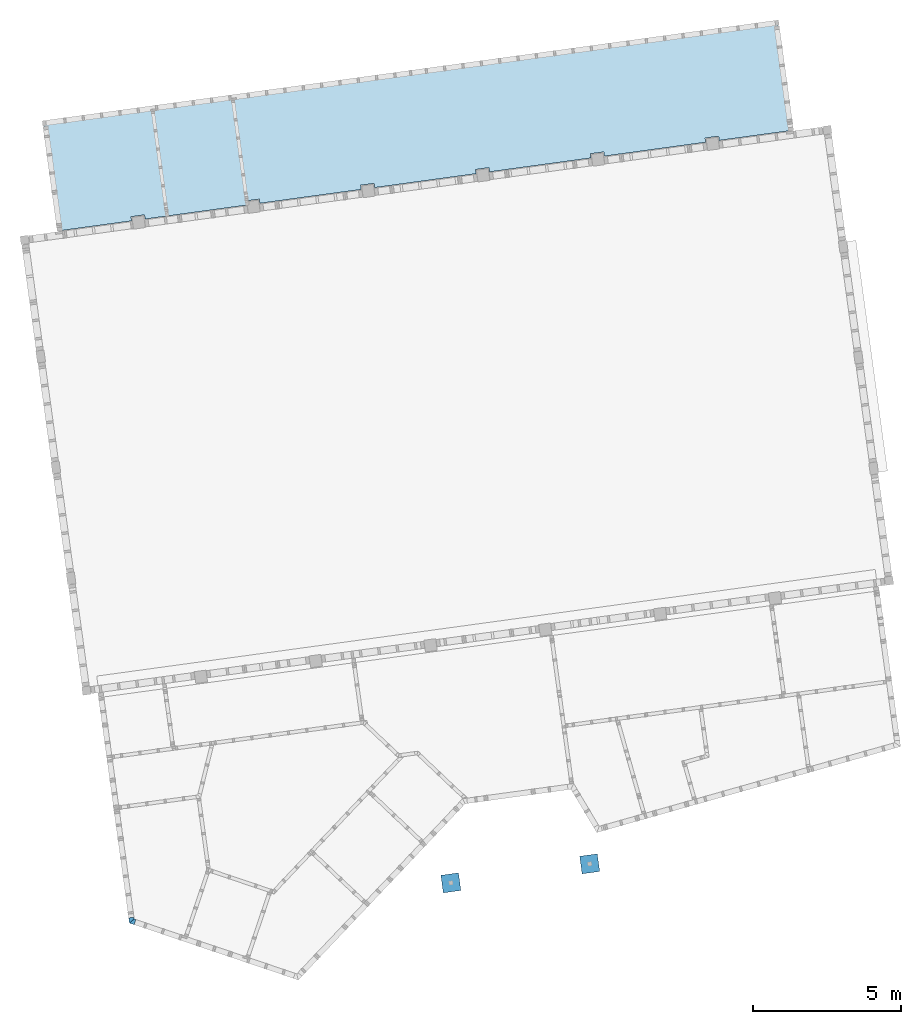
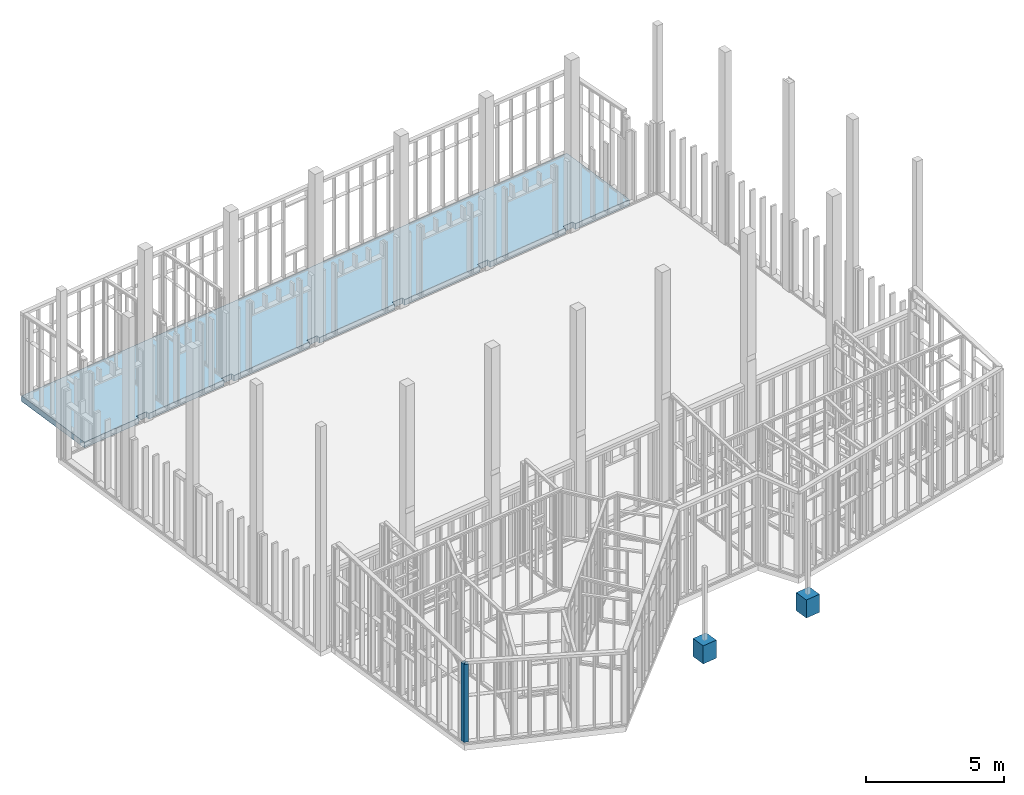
# One storey, part 15 of 24: 5 slabs.
"""IFC2X3 building model written with IfcOpenShell, lengths in metres."""

import ifcopenshell
import ifcopenshell.guid

model = None  # the IFC model being written
_history = None  # IfcOwnerHistory: only IFC2X3 demands one
_inside = {}  # id of a spatial element -> (the spatial element, [elements in it])
_under = {}  # id of a project, library or spatial element -> (it, [spatial elements below it])
_declared = {}  # id of a project -> (the project, [libraries it declares])
_typed = {}  # id of a type object -> (the type object, [elements of that type])
_made_of = {}  # id of a material, layer set ... -> (it, [elements and type objects made of it])


def new_model(schema):
    """Start an empty IFC model of exactly this schema.

    Asked for "IFC4X3", IfcOpenShell would pick the latest addendum, in which some entities
    have other attributes; the version numbers below select the first issue.
    IFC2X3 requires an IfcOwnerHistory on every rooted entity: one is made here for all.
    """
    global model, _history
    if schema == "IFC4X3":
        model = ifcopenshell.file(schema_version=(4, 3, 0, 0))
    else:
        model = ifcopenshell.file(schema=schema)
    _inside.clear()
    _under.clear()
    _declared.clear()
    _typed.clear()
    _made_of.clear()
    _history = None
    if model.schema == "IFC2X3":
        org = make("IfcOrganization", Name="unknown")
        user = make(
            "IfcPersonAndOrganization",
            ThePerson=make("IfcPerson", FamilyName="unknown"),
            TheOrganization=org,
        )
        app = make(
            "IfcApplication",
            ApplicationDeveloper=org,
            Version="unknown",
            ApplicationFullName="unknown",
            ApplicationIdentifier="unknown",
        )
        _history = make(
            "IfcOwnerHistory",
            OwningUser=user,
            OwningApplication=app,
            ChangeAction="ADDED",
            CreationDate=0,
        )
    return model


def make(cls, **values):
    """One entity of the class cls with the attributes given. An attribute that is None is left unset."""
    return model.create_entity(
        cls, **{name: value for name, value in values.items() if value is not None}
    )


def entity(cls, *values):
    """Any entity or typed value of the class cls, its attributes in the order of the schema. None: left unset."""
    e = model.create_entity(cls)
    for i, value in enumerate(values):
        if value is not None:
            e[i] = value
    return e


def rooted(cls, **values):
    """An entity with a GlobalId (a new one), such as an element, a storey or a relation."""
    return make(cls, GlobalId=ifcopenshell.guid.new(), OwnerHistory=_history, **values)


def si_unit(unit_type, name, prefix=None):
    """IfcSIUnit, for example si_unit("LENGTHUNIT", "METRE", prefix="MILLI")."""
    return make("IfcSIUnit", UnitType=unit_type, Prefix=prefix, Name=name)


def converted_unit(unit_type, name, factor, base, dimensions=None, offset=None):
    """IfcConversionBasedUnit, such as the inch: factor (a typed value) times the base unit."""
    return make(
        "IfcConversionBasedUnit"
        if offset is None
        else "IfcConversionBasedUnitWithOffset",
        ConversionOffset=offset,
        Dimensions=None
        if dimensions is None
        else entity("IfcDimensionalExponents", *dimensions),
        UnitType=unit_type,
        Name=name,
        ConversionFactor=make(
            "IfcMeasureWithUnit", ValueComponent=factor, UnitComponent=base
        ),
    )


def derived_unit(unit_type, elements):
    """IfcDerivedUnit: a product of units, each with its exponent."""
    return make(
        "IfcDerivedUnit",
        Elements=[
            make("IfcDerivedUnitElement", Unit=unit, Exponent=power)
            for unit, power in elements
        ],
        UnitType=unit_type,
    )


def money_unit(currency):
    """IfcMonetaryUnit."""
    return make("IfcMonetaryUnit", Currency=currency)


def assignment(units):
    """IfcUnitAssignment: the units of a project."""
    return None if units is None else make("IfcUnitAssignment", Units=units)


def point(xyz):
    """IfcCartesianPoint."""
    return None if xyz is None else make("IfcCartesianPoint", Coordinates=xyz)


def direction(xyz):
    """IfcDirection."""
    return None if xyz is None else make("IfcDirection", DirectionRatios=xyz)


def frame(location, z_axis=None, x_axis=None):
    """IfcAxis2Placement3D, a coordinate frame: its origin and axes. An axis left out is left unset."""
    return make(
        "IfcAxis2Placement3D",
        Location=point(location),
        Axis=direction(z_axis),
        RefDirection=direction(x_axis),
    )


def origin_with_axes():
    """The frame at (0, 0, 0) with the z axis (0, 0, 1) and the x axis (1, 0, 0) written out."""
    return frame((0.0, 0.0, 0.0), z_axis=(0.0, 0.0, 1.0), x_axis=(1.0, 0.0, 0.0))


def place(relative_to, where):
    """IfcLocalPlacement: puts the frame where relative to a parent placement (None: the world)."""
    return make(
        "IfcLocalPlacement", PlacementRelTo=relative_to, RelativePlacement=where
    )


def context(
    kind, dimensions, precision=None, world=None, true_north=None, identifier=None
):
    """IfcGeometricRepresentationContext, for example the 3D "Model" context."""
    return make(
        "IfcGeometricRepresentationContext",
        ContextIdentifier=identifier,
        ContextType=kind,
        CoordinateSpaceDimension=dimensions,
        Precision=precision,
        WorldCoordinateSystem=world,
        TrueNorth=true_north,
    )


def subcontext(parent, identifier, kind, view, scale=None):
    """IfcGeometricRepresentationSubContext, for example "Body" below "Model"."""
    return make(
        "IfcGeometricRepresentationSubContext",
        ContextIdentifier=identifier,
        ContextType=kind,
        ParentContext=parent,
        TargetScale=scale,
        TargetView=view,
    )


def project(units=None, contexts=None):
    """IfcProject with its units and contexts."""
    return rooted(
        "IfcProject",
        Name="project",
        RepresentationContexts=contexts,
        UnitsInContext=assignment(units),
    )


def spatial(cls, under=None, at=None, **own):
    """A site, building, storey or space (cls), placed at a placement, below another one or the project."""
    s = rooted(cls, ObjectPlacement=at, **own)
    if under is not None:
        _under.setdefault(under.id(), (under, []))[1].append(s)
    return s


def polyline(points):
    """IfcPolyline through the points."""
    return make("IfcPolyline", Points=[point(p) for p in points])


def outline(outer, holes=None, kind="AREA"):
    """IfcArbitraryClosedProfileDef: a profile drawn as a closed curve; with holes, ...WithVoids."""
    if holes is None:
        return make("IfcArbitraryClosedProfileDef", ProfileType=kind, OuterCurve=outer)
    return make(
        "IfcArbitraryProfileDefWithVoids",
        ProfileType=kind,
        OuterCurve=outer,
        InnerCurves=holes,
    )


def extrude(swept, where, along, depth):
    """IfcExtrudedAreaSolid: the profile swept, set in the frame where, extruded along a direction by depth."""
    return make(
        "IfcExtrudedAreaSolid",
        SweptArea=swept,
        Position=where,
        ExtrudedDirection=direction(along),
        Depth=depth,
    )


def faces_of(points, faces, orient=None, outer=None):
    """IfcFace entities. A face is a list of loops; a loop is a list of indices into points, from 0.

    orient and outer hold one flag for each loop. By default every Orientation is true, the
    first loop of a face is its IfcFaceOuterBound and the others are IfcFaceBound.
    """
    made = []
    for i, loops in enumerate(faces):
        bounds = []
        for j, loop in enumerate(loops):
            is_outer = j == 0 if outer is None else outer[i][j]
            bounds.append(
                make(
                    "IfcFaceOuterBound" if is_outer else "IfcFaceBound",
                    Bound=make("IfcPolyLoop", Polygon=[points[k] for k in loop]),
                    Orientation=True if orient is None else orient[i][j],
                )
            )
        made.append(make("IfcFace", Bounds=bounds))
    return made


def faceted_brep(points, faces, orient=None, outer=None, voids=None):
    """IfcFacetedBrep: a solid bounded by flat faces; with voids (closed shells), ...WithVoids."""
    shared = [point(p) for p in points]
    hull = make("IfcClosedShell", CfsFaces=faces_of(shared, faces, orient, outer))
    if voids is None:
        return make("IfcFacetedBrep", Outer=hull)
    return make(
        "IfcFacetedBrepWithVoids",
        Outer=hull,
        Voids=[
            make(cls, CfsFaces=faces_of(shared, fs, o, b)) for cls, fs, o, b in voids
        ],
    )


def shape(context_of_items, identifier, shape_type, items):
    """IfcShapeRepresentation: the items that make up one representation, for example the "Body"."""
    return make(
        "IfcShapeRepresentation",
        ContextOfItems=context_of_items,
        RepresentationIdentifier=identifier,
        RepresentationType=shape_type,
        Items=items,
    )


def material(Name=None, Category=None):
    """IfcMaterial."""
    return make("IfcMaterial", Name=Name, Category=Category)


def layer(
    of_material, thickness, ventilated=None, Name=None, Category=None, Priority=None
):
    """IfcMaterialLayer: one layer of a wall or slab, of a material (None: an air gap)."""
    return make(
        "IfcMaterialLayer",
        Material=of_material,
        LayerThickness=thickness,
        IsVentilated=ventilated,
        Name=Name,
        Category=Category,
        Priority=Priority,
    )


def layer_set(layers, Name=None):
    """IfcMaterialLayerSet."""
    return make("IfcMaterialLayerSet", MaterialLayers=layers, LayerSetName=Name)


def layer_usage(for_layer_set, set_direction, sense, offset, extent=None):
    """IfcMaterialLayerSetUsage: how a layer set lies in its element."""
    return make(
        "IfcMaterialLayerSetUsage",
        ForLayerSet=for_layer_set,
        LayerSetDirection=set_direction,
        DirectionSense=sense,
        OffsetFromReferenceLine=offset,
        ReferenceExtent=extent,
    )


def made_of(thing, what):
    """Note that an element or type object is made of a material, layer set ...; save() writes the relation."""
    if what is not None:
        _made_of.setdefault(what.id(), (what, []))[1].append(thing)
    return thing


def type_object(cls, material=None, **own):
    """A type object (cls), such as IfcWallType, which elements share."""
    return made_of(rooted(cls, **own), material)


def element(
    cls,
    number,
    at=None,
    inside=None,
    cuts=None,
    type_object=None,
    material=None,
    context=None,
    identifier="Body",
    shape_type=None,
    held_by="IfcProductDefinitionShape",
    body=None,
    shapes=None,
    **own,
):
    """One element of the class cls, such as IfcWall. Its Tag is "e" and its number.

    at: its placement. inside: the storey or other place that contains it. cuts: it is an
    opening in that element (IfcRelVoidsElement). A single representation is given by context,
    identifier, shape_type and body (its items); several are given by shapes. held_by: the class
    of the entity that holds the representations. save() writes the other relations.
    """
    e = rooted(cls, Tag="e%d" % number, ObjectPlacement=at, **own)
    if body is not None:
        shapes = [shape(context, identifier, shape_type, body)]
    if shapes is not None:
        e.Representation = make(held_by, Representations=shapes)
    if inside is not None:
        _inside.setdefault(inside.id(), (inside, []))[1].append(e)
    if cuts is not None:
        rooted(
            "IfcRelVoidsElement", RelatingBuildingElement=cuts, RelatedOpeningElement=e
        )
    if type_object is not None:
        _typed.setdefault(type_object.id(), (type_object, []))[1].append(e)
    return made_of(e, material)


def aggregate(whole, parts):
    """IfcRelAggregates: a whole, such as a stair, and the parts it consists of."""
    return rooted("IfcRelAggregates", RelatingObject=whole, RelatedObjects=parts)


def save(model, path):
    """Write the relations noted so far, then the file.

    IfcRelAggregates (storeys below a building ...), IfcRelContainedInSpatialStructure (elements
    in a storey), IfcRelDefinesByType, IfcRelAssociatesMaterial and IfcRelDeclares: one each for
    every whole, place, type object, material and project.
    """
    for whole, parts in _under.values():
        aggregate(whole, parts)
    for where, things in _inside.values():
        rooted(
            "IfcRelContainedInSpatialStructure",
            RelatedElements=things,
            RelatingStructure=where,
        )
    for kind, things in _typed.values():
        rooted("IfcRelDefinesByType", RelatedObjects=things, RelatingType=kind)
    for what, things in _made_of.values():
        rooted("IfcRelAssociatesMaterial", RelatedObjects=things, RelatingMaterial=what)
    for by, libraries in _declared.values():
        rooted("IfcRelDeclares", RelatingContext=by, RelatedDefinitions=libraries)
    model.write(path)


model = new_model("IFC2X3")

# Units and contexts
model_context = context("Model", 3, precision=1e-05, world=origin_with_axes(), true_north=direction((0.0, 1.0)))
body_context = subcontext(model_context, "Body", "Model", "MODEL_VIEW")
ifc_project = project(units=[si_unit("LENGTHUNIT", "METRE"), si_unit("AREAUNIT", "SQUARE_METRE"), si_unit("VOLUMEUNIT", "CUBIC_METRE"), converted_unit("PLANEANGLEUNIT", "DEGREE", entity("IfcPlaneAngleMeasure", 0.0174532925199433), si_unit("PLANEANGLEUNIT", "RADIAN"), dimensions=[0, 0, 0, 0, 0, 0, 0]), money_unit("EUR"), converted_unit("TIMEUNIT", "Year", entity("IfcTimeMeasure", 31557600.0), si_unit("TIMEUNIT", "SECOND"), dimensions=[0, 0, 1, 0, 0, 0, 0]), si_unit("MASSUNIT", "GRAM", prefix="KILO"), si_unit("THERMODYNAMICTEMPERATUREUNIT", "DEGREE_CELSIUS"), si_unit("LUMINOUSINTENSITYUNIT", "LUMEN"), si_unit("ENERGYUNIT", "JOULE", prefix="MEGA"), derived_unit("THERMALCONDUCTANCEUNIT", [(si_unit("POWERUNIT", "WATT"), 1), (si_unit("LENGTHUNIT", "METRE"), -1), (si_unit("THERMODYNAMICTEMPERATUREUNIT", "KELVIN"), -1)]), derived_unit("SPECIFICHEATCAPACITYUNIT", [(si_unit("ENERGYUNIT", "JOULE"), 1), (si_unit("MASSUNIT", "GRAM", prefix="KILO"), -1), (si_unit("THERMODYNAMICTEMPERATUREUNIT", "KELVIN"), -1)]), derived_unit("MASSDENSITYUNIT", [(si_unit("MASSUNIT", "GRAM", prefix="KILO"), 1), (si_unit("VOLUMEUNIT", "CUBIC_METRE"), -1)])], contexts=[model_context])

# Site, building, storey
site_placement = place(None, origin_with_axes())
site = spatial("IfcSite", under=ifc_project, at=site_placement, Name="Gelände", CompositionType="ELEMENT")
building_placement = place(site_placement, origin_with_axes())
building = spatial("IfcBuilding", under=site, at=building_placement, Name="Gebäude", CompositionType="ELEMENT")
storey_placement = place(building_placement, origin_with_axes())
storey = spatial("IfcBuildingStorey", under=building, at=storey_placement, Name="EG", CompositionType="ELEMENT", Elevation=0.0)

# Slabs
ifc_material_1 = material(Name="Beton, Stahlbeton 25")
ifc_layer_1 = layer(ifc_material_1, 0.25, ventilated="UNKNOWN")
ifc_layer_set_1 = layer_set([ifc_layer_1], Name="Beton, Stahlbeton 25 0.25")
ifc_layer_usage_1 = layer_usage(ifc_layer_set_1, "AXIS3", "NEGATIVE", 0.2500000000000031)
slab_type_1 = type_object("IfcSlabType", Name="Beton, Stahlbeton 25 250", PredefinedType="FLOOR")
slab_1_placement = place(storey_placement, frame((109.9309994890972, -128.4100744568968, -0.09000000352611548), z_axis=(0.0, 0.0, 1.0), x_axis=(1.0, 0.0, 0.0)))
element("IfcSlab", 1, at=slab_1_placement, inside=storey, type_object=slab_type_1, material=ifc_layer_usage_1, Name="Decke-005", PredefinedType="FLOOR", context=body_context, shape_type="SweptSolid", body=[
    extrude(outline(polyline([(0.0, 0.0), (-24.78790424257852, -3.395408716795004), (-24.28342019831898, -7.078353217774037), (-21.81252142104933, -6.739893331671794), (-21.83197613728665, -6.597865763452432), (-21.37623185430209, -6.535438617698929), (-21.35677713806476, -6.67746618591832), (-17.93444895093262, -6.208680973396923), (-17.95390366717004, -6.066653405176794), (-17.49815938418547, -6.004226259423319), (-17.47870466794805, -6.146253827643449), (-14.05637648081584, -5.677468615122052), (-14.07583119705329, -5.535441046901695), (-13.62008691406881, -5.473013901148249), (-13.60063219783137, -5.615041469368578), (-10.17830401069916, -5.146256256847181), (-10.19775872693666, -5.00422868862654), (-9.74201444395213, -4.941801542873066), (-9.722559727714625, -5.083829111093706), (-6.300231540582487, -4.61504389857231), (-6.319686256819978, -4.473016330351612), (-5.863941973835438, -4.410589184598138), (-5.844487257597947, -4.552616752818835), (-2.42215907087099, -4.083831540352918), (-2.441613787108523, -3.941803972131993), (-1.98586950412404, -3.879376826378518), (-1.966414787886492, -4.021404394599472), (0.5044840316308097, -3.6829445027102), (0.0, 0.0)])), frame((0.0, 0.0, -0.2500000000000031), z_axis=(0.0, 0.0, 1.0), x_axis=(1.0, 0.0, 0.0)), (0.0, 0.0, 1.0), 0.2500000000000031),
])
ifc_layer_2 = layer(ifc_material_1, 0.8, ventilated="UNKNOWN")
ifc_layer_set_2 = layer_set([ifc_layer_2], Name="Beton, Stahlbeton 25 0.8")
ifc_layer_usage_2 = layer_usage(ifc_layer_set_2, "AXIS3", "NEGATIVE", 0.8)
slab_type_2 = type_object("IfcSlabType", Name="Beton, Stahlbeton 25 800", PredefinedType="FLOOR")
slab_2_placement = place(storey_placement, frame((103.3336281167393, -157.2024091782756, -0.09999999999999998), z_axis=(0.0, 0.0, 1.0), x_axis=(1.0, 0.0, 0.0)))
element("IfcSlab", 2, at=slab_2_placement, inside=storey, type_object=slab_type_2, material=ifc_layer_usage_2, Name="Decke-005", PredefinedType="FLOOR", context=body_context, shape_type="SweptSolid", body=[
    extrude(outline(polyline([(0.0, 0.0), (0.5944490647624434, 0.08142671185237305), (0.5130223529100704, 0.6758757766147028), (-0.08142671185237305, 0.5944490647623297), (0.0, 0.0)])), frame((0.0, 0.0, -0.8), z_axis=(0.0, 0.0, 1.0), x_axis=(1.0, 0.0, 0.0)), (0.0, 0.0, 1.0), 0.8),
])
ifc_layer_usage_3 = layer_usage(ifc_layer_set_2, "AXIS3", "NEGATIVE", 0.8)
slab_3_placement = place(storey_placement, frame((98.64558695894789, -157.844569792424, -0.09999999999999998), z_axis=(0.0, 0.0, 1.0), x_axis=(1.0, 0.0, 0.0)))
element("IfcSlab", 3, at=slab_3_placement, inside=storey, type_object=slab_type_2, material=ifc_layer_usage_3, Name="Decke-005", PredefinedType="FLOOR", context=body_context, shape_type="SweptSolid", body=[
    extrude(outline(polyline([(0.0, 0.0), (0.5944490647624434, 0.08142671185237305), (0.5130223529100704, 0.6758757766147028), (-0.08142671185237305, 0.5944490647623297), (0.0, 0.0)])), frame((0.0, 0.0, -0.8), z_axis=(0.0, 0.0, 1.0), x_axis=(1.0, 0.0, 0.0)), (0.0, 0.0, 1.0), 0.8),
])
ifc_material_2 = material(Name="Holz, Bauholz")
slab_type_3 = type_object("IfcSlabType", Name="Holz, Bauholz", PredefinedType="FLOOR")
slab_4_placement = place(storey_placement, frame((-0.01601390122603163, 0.1169081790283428, 0.0), z_axis=(0.0, 0.0, 1.0), x_axis=(1.0, 0.0, 0.0)))
element("IfcSlab", 4, at=slab_4_placement, inside=storey, type_object=slab_type_3, material=ifc_material_2, Name="Decke-016", PredefinedType="FLOOR", context=body_context, shape_type="Brep", body=[
    faceted_brep([(88.05988439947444, -158.9780268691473, 3.423121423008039), (88.03661061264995, -158.8081184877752, 3.423121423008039), (88.03661061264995, -158.8081184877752, -0.04300000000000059), (88.05988439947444, -158.9780268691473, -0.04300000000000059), (88.22308802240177, -158.8431352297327, 3.423121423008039), (88.21494530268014, -158.7836903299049, 3.423121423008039), (88.21494530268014, -158.7836903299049, -0.04300000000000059), (88.22308802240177, -158.8431352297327, -0.04300000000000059)], [[[0, 1, 2, 3]], [[1, 0, 4, 5]], [[2, 1, 5, 6]], [[3, 2, 6, 7]], [[3, 7, 4, 0]], [[4, 7, 6, 5]]]),
])
slab_5_placement = place(storey_placement, frame((-0.01601382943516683, 0.1169084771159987, -0.01500000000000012), z_axis=(0.0, 0.0, 1.0), x_axis=(1.0, 0.0, 0.0)))
element("IfcSlab", 5, at=slab_5_placement, inside=storey, type_object=slab_type_3, material=ifc_material_2, Name="Decke-017", PredefinedType="FLOOR", context=body_context, shape_type="Brep", body=[
    faceted_brep([(88.05988442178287, -158.9780270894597, -0.02800000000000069), (88.22237343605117, -159.0328707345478, -0.02800000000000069), (88.22237343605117, -159.0328707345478, 3.42), (88.05988442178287, -158.9780270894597, 3.42), (88.2230879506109, -158.8431355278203, -0.02800000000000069), (88.27993708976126, -158.8623234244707, -0.02800000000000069), (88.27993708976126, -158.8623234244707, 3.42), (88.2230879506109, -158.8431355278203, 3.42)], [[[0, 1, 2, 3]], [[1, 0, 4, 5]], [[1, 5, 6, 2]], [[3, 2, 6, 7]], [[0, 3, 7, 4]], [[4, 7, 6, 5]]]),
])

save(model, "model.ifc")
